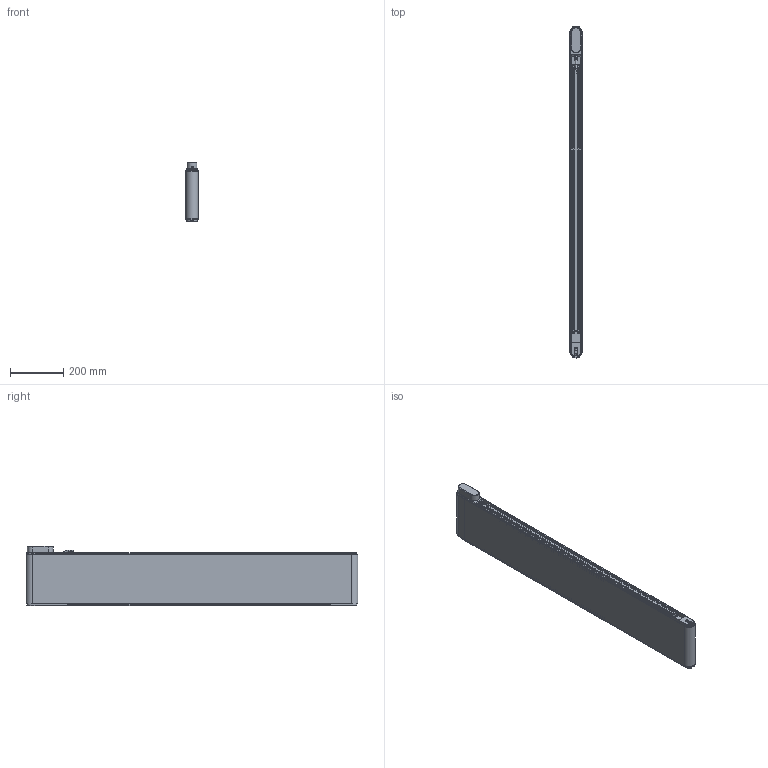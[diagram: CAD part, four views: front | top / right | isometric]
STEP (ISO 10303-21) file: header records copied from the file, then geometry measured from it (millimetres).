
FILE_DESCRIPTION(/* description */ (''),/* implementation_level */ '2;1');
FILE_NAME(/* name */ 'G:\DATEN\CAD\Förderband\Marketing\3D-Modelle (Standard)\FR-40-200-Q\FR-40-200-Q-1200-K.stp',/* time_stamp */ '2019-05-09T09:52:28+02:00',/* author */ ('melanie.ochs'),/* organization */ (''),/* preprocessor_version */ 'ST-DEVELOPER v17',/* originating_system */ 'Autodesk Inventor 2019',/* authorisation */ '');
FILE_SCHEMA (('CONFIG_CONTROL_DESIGN'));
Length unit declared in the file: centimetre
Products named in the file (1): FR-40-200-Q-1200-K
Bounding box: 46.6 x 1246.6 x 224.5 mm (x, y, z)
Volume: 3557894.4 mm3; surface area: 1607876.4 mm2
Topology: 6 solids, 25 shells, 942 faces, 2570 edges, 1713 vertices
Faces by surface type: plane 479, cylinder 297, cone 76, bspline 61, torus 29
Full cylindrical faces by diameter (mm): 1 x6, 3 x1, 4 x12, 4.3 x4, 4.917 x3, 5 x11, 5.5 x8, 6 x4, 6.5 x1, 6.773 x1, 6.917 x3, 8 x4, 8.3 x10, 8.5 x8, 8.773 x1, 10 x2, 11 x1, 12 x6, 25 x2, 28 x2, 28.01 x2, 30 x1
Entity records: 31846 total; most frequent: CARTESIAN_POINT 6961, ORIENTED_EDGE 5096, DIRECTION 4913, EDGE_CURVE 2548, AXIS2_PLACEMENT_3D 1774, VERTEX_POINT 1712, LINE 1365, VECTOR 1365
